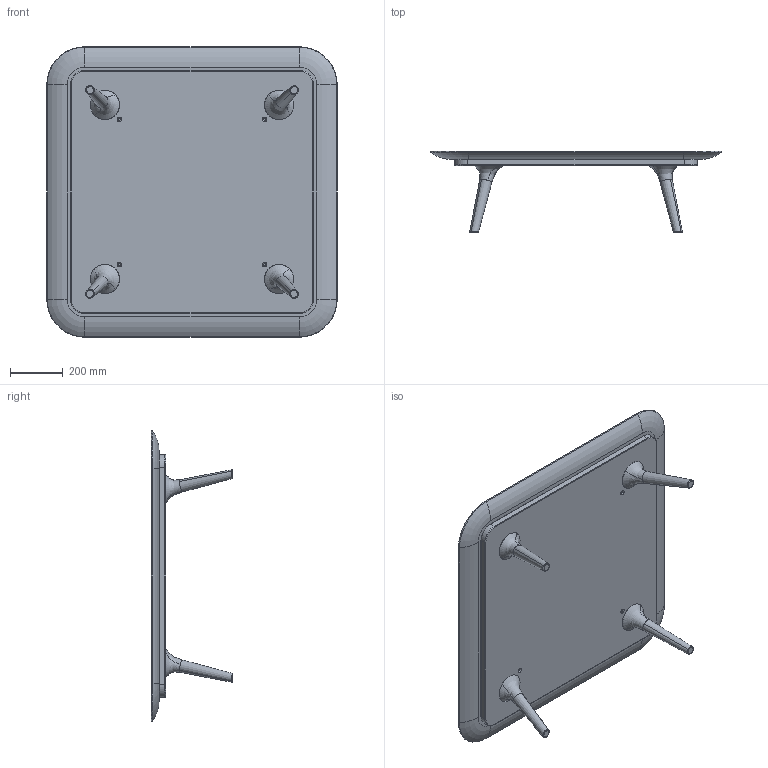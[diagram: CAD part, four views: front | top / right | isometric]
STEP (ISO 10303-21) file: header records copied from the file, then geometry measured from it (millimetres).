
FILE_DESCRIPTION (( 'STEP AP203' ), '1' );
FILE_NAME ('Zio_coffeetable_110x110.STEP', '2014-09-02T12:21:30', ( '' ), ( '' ), 'SwSTEP 2.0', 'SolidWorks 2014', '' );
FILE_SCHEMA (( 'CONFIG_CONTROL_DESIGN' ));
Length unit declared in the file: millimetre
Products named in the file (1): Zio_coffeetable_110x110
Bounding box: 1100.46 x 309 x 1100.44 mm (x, y, z)
Volume: 56150372 mm3; surface area: 4423632.4 mm2
Topology: 6 solids, 6 shells, 180 faces, 393 edges, 246 vertices
Faces by surface type: cylinder 95, plane 37, torus 16, cone 16, bspline 16
Entity records: 8882 total; most frequent: CARTESIAN_POINT 4776, DIRECTION 893, ORIENTED_EDGE 786, EDGE_CURVE 393, AXIS2_PLACEMENT_3D 383, VERTEX_POINT 246, EDGE_LOOP 225, CIRCLE 218
